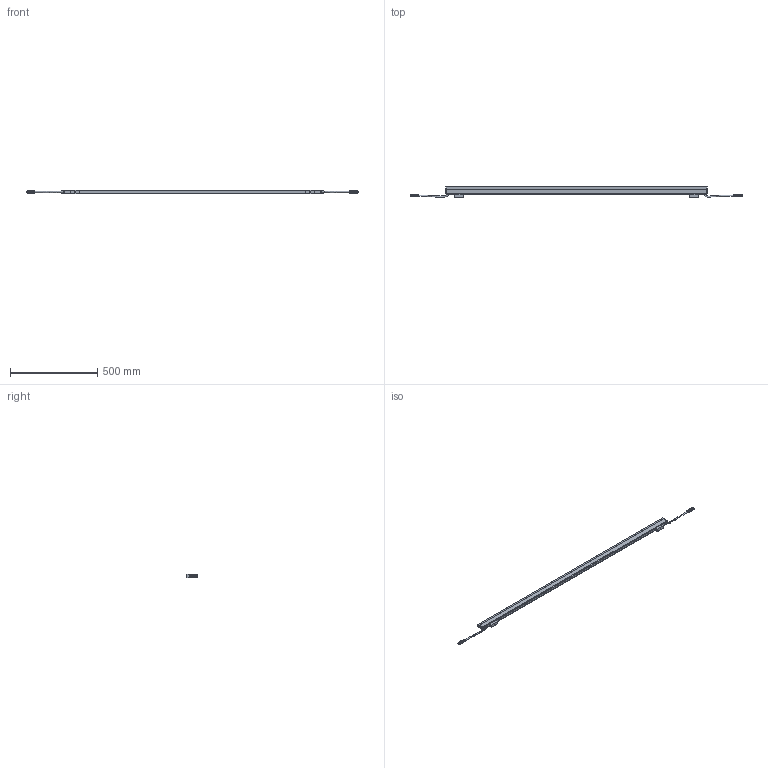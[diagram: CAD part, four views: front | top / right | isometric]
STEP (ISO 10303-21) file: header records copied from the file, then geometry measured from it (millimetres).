
FILE_DESCRIPTION (( 'STEP AP214' ), '1' );
FILE_NAME ('DiGi Linear V-Series L1500 Square.STEP', '2025-07-22T11:44:12', ( '' ), ( '' ), 'SwSTEP 2.0', 'SolidWorks 2025', '' );
FILE_SCHEMA (( 'AUTOMOTIVE_DESIGN' ));
Length unit declared in the file: millimetre
Products named in the file (7): DiGi Linear V-serie - Cabling_L1500; M12 3p Male; DiGi Linear V-serie - Clip; DiGi Linear V-Series L1500 Square; Counter sunk screw torx_M2x6; M12 3p Female; DiGi Linear V-serie - Body_L1500 Square
Assembly tree (10 placements, depth 2):
  DiGi Linear V-Series L1500 Square
    DiGi Linear V-serie - Body_L1500 Square
    DiGi Linear V-serie - Clip  x2
    M12 3p Male
    M12 3p Female
    DiGi Linear V-serie - Cabling_L1500
    Counter sunk screw torx_M2x6  x4
Bounding box: 1907.4 x 59.99 x 18.3 mm (x, y, z)
Volume: 1181534.1 mm3; surface area: 235777.6 mm2
Topology: 13 solids, 13 shells, 1288 faces, 3239 edges, 2020 vertices
Faces by surface type: plane 493, cylinder 358, bspline 184, torus 161, cone 80, sphere 12
Full cylindrical faces by diameter (mm): 2 x4, 2.4 x4, 3 x4, 6.5 x6, 9.7 x1, 10 x2, 10.8 x1, 12.3 x1, 14.3 x2
Entity records: 54080 total; most frequent: CARTESIAN_POINT 17232, ORIENTED_EDGE 5846, DIRECTION 4845, EDGE_CURVE 2923, VERTEX_POINT 1836, AXIS2_PLACEMENT_3D 1823, EDGE_LOOP 1283, FACE_OUTER_BOUND 1212
